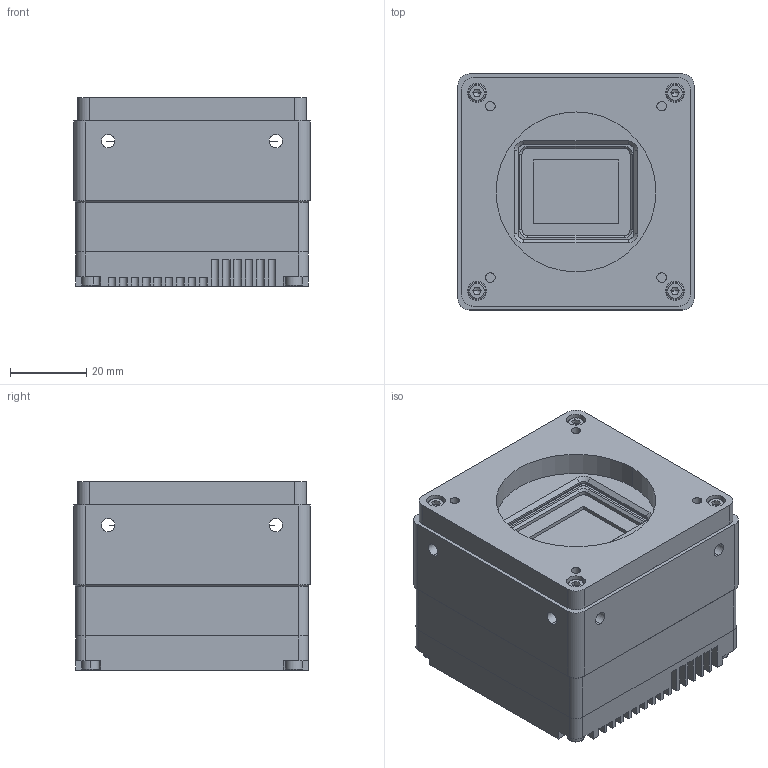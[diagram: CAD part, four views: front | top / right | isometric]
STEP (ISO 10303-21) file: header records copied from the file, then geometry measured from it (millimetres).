
FILE_DESCRIPTION (( 'STEP AP203' ), '1' );
FILE_NAME ('31M_外表面20220729.STEP', '2022-07-29T05:24:17', ( '微软用户' ), ( '微软中国' ), 'SwSTEP 2.0', 'SolidWorks 2017', '' );
FILE_SCHEMA (( 'CONFIG_CONTROL_DESIGN' ));
Length unit declared in the file: millimetre
Products named in the file (1): 31M_俋桶醱20220729
Bounding box: 62 x 62 x 49.47 mm (x, y, z)
Surface area: 29489.2 mm2 (no closed solid volume)
Topology: 0 solids, 49 shells, 500 faces, 1924 edges, 1434 vertices
Faces by surface type: plane 304, cylinder 143, cone 36, torus 16, sphere 1
Entity records: 20295 total; most frequent: CARTESIAN_POINT 4078, DIRECTION 3445, ORIENTED_EDGE 2885, EDGE_CURVE 1905, VERTEX_POINT 1432, VECTOR 1335, LINE 1335, AXIS2_PLACEMENT_3D 1055
